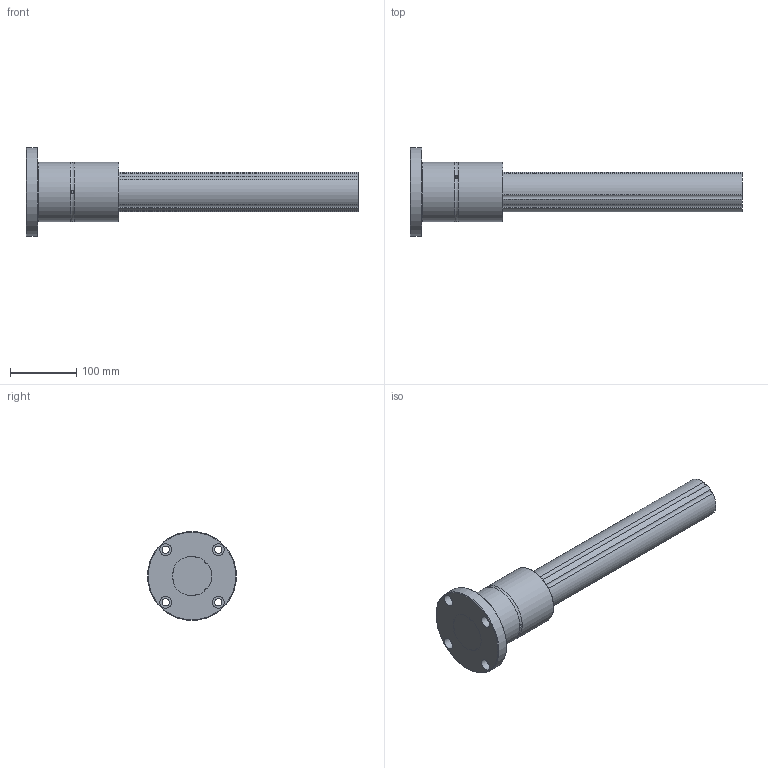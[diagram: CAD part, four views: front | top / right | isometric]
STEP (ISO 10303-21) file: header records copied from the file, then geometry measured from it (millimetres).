
FILE_DESCRIPTION(/* description */ ('STEP AP214'),/* implementation_level */ '2;1');
FILE_NAME(/* name */ 'LF601500(00)',/* time_stamp */ '2024-09-05T14:36:57+02:00',/* author */ ('License CC BY-ND 4.0'),/* organization */ ('CADENAS'),/* preprocessor_version */ 'ST-DEVELOPER v19.3',/* originating_system */ 'PARTsolutions',/* authorisation */ ' ');
FILE_SCHEMA (('AUTOMOTIVE_DESIGN {1 0 10303 214 3 1 1}'));
Length unit declared in the file: millimetre
Products named in the file (3): LF601500(00); LF 60500 FTLFShaft; LF 60 FTLF Cylindar
Assembly tree (2 placements, depth 2):
  LF601500(00)
    LF 60500 FTLFShaft
    LF 60 FTLF Cylindar
Bounding box: 500 x 134 x 134 mm (x, y, z)
Volume: 2014015 mm3; surface area: 196954.5 mm2
Topology: 2 solids, 2 shells, 56 faces, 148 edges, 98 vertices
Faces by surface type: cylinder 39, plane 9, torus 6, cone 2
Full cylindrical faces by diameter (mm): 5 x3, 11 x4, 17.5 x4, 89.3 x1, 90 x2, 134 x1
Entity records: 1756 total; most frequent: CARTESIAN_POINT 351, DIRECTION 302, ORIENTED_EDGE 238, AXIS2_PLACEMENT_3D 139, EDGE_CURVE 119, EDGE_LOOP 94, FACE_BOUND 94, VERTEX_POINT 89
